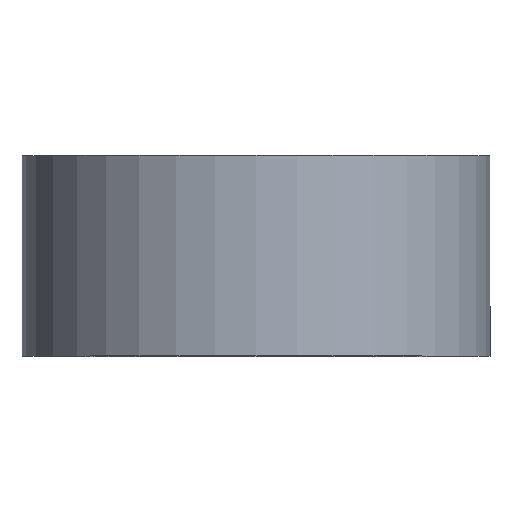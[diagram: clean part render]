
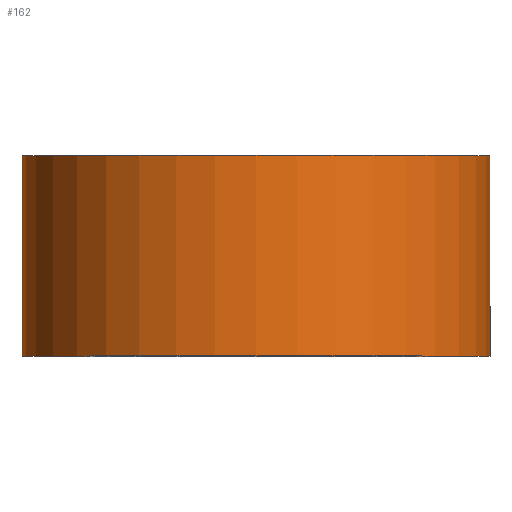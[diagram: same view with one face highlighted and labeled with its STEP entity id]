
A CAD part, top view. The second image highlights one B-rep face of the part: STEP entity #162.
In plain terms, the highlighted cylindrical face has radius 35 mm (diameter 70 mm), a partial arc.
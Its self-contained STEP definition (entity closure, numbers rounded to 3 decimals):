
#6 = CARTESIAN_POINT ( 'NONE',  ( 0., 30., 0. ) ) ;
#7 = ORIENTED_EDGE ( 'NONE', *, *, #86, .F. ) ;
#8 = CYLINDRICAL_SURFACE ( 'NONE', #264, 35. ) ;
#20 = DIRECTION ( 'NONE',  ( -1., 0., 0. ) ) ;
#27 = VERTEX_POINT ( 'NONE', #185 ) ;
#31 = AXIS2_PLACEMENT_3D ( 'NONE', #113, #210, #115 ) ;
#57 = CARTESIAN_POINT ( 'NONE',  ( 35., 0., 0. ) ) ;
#69 = VERTEX_POINT ( 'NONE', #161 ) ;
#71 = CARTESIAN_POINT ( 'NONE',  ( 35., 0., 0. ) ) ;
#76 = EDGE_CURVE ( 'NONE', #27, #219, #273, .T. ) ;
#79 = DIRECTION ( 'NONE',  ( 0., 1., 0. ) ) ;
#86 = EDGE_CURVE ( 'NONE', #233, #69, #249, .T. ) ;
#88 = DIRECTION ( 'NONE',  ( -1., 0., 0. ) ) ;
#90 = EDGE_CURVE ( 'NONE', #219, #69, #188, .T. ) ;
#105 = VECTOR ( 'NONE', #198, 1000. ) ;
#113 = CARTESIAN_POINT ( 'NONE',  ( 0., 0., 0. ) ) ;
#115 = DIRECTION ( 'NONE',  ( -1., 0., 0. ) ) ;
#118 = DIRECTION ( 'NONE',  ( 0., 1., 0. ) ) ;
#124 = LINE ( 'NONE', #126, #105 ) ;
#126 = CARTESIAN_POINT ( 'NONE',  ( -35., 0., 0. ) ) ;
#153 = ORIENTED_EDGE ( 'NONE', *, *, #90, .T. ) ;
#161 = CARTESIAN_POINT ( 'NONE',  ( 35., 30., 0. ) ) ;
#162 = ADVANCED_FACE ( 'NONE', ( #254 ), #8, .T. ) ;
#172 = CARTESIAN_POINT ( 'NONE',  ( 0., 0., 0. ) ) ;
#173 = EDGE_CURVE ( 'NONE', #27, #233, #124, .T. ) ;
#185 = CARTESIAN_POINT ( 'NONE',  ( -35., 0., 0. ) ) ;
#188 = LINE ( 'NONE', #71, #214 ) ;
#198 = DIRECTION ( 'NONE',  ( 0., 1., 0. ) ) ;
#199 = ORIENTED_EDGE ( 'NONE', *, *, #173, .F. ) ;
#210 = DIRECTION ( 'NONE',  ( 0., 1., 0. ) ) ;
#214 = VECTOR ( 'NONE', #238, 1000. ) ;
#219 = VERTEX_POINT ( 'NONE', #57 ) ;
#226 = AXIS2_PLACEMENT_3D ( 'NONE', #6, #118, #88 ) ;
#233 = VERTEX_POINT ( 'NONE', #250 ) ;
#238 = DIRECTION ( 'NONE',  ( 0., 1., 0. ) ) ;
#249 = CIRCLE ( 'NONE', #226, 35. ) ;
#250 = CARTESIAN_POINT ( 'NONE',  ( -35., 30., 0. ) ) ;
#254 = FACE_OUTER_BOUND ( 'NONE', #255, .T. ) ;
#255 = EDGE_LOOP ( 'NONE', ( #294, #153, #7, #199 ) ) ;
#264 = AXIS2_PLACEMENT_3D ( 'NONE', #172, #79, #20 ) ;
#273 = CIRCLE ( 'NONE', #31, 35. ) ;
#294 = ORIENTED_EDGE ( 'NONE', *, *, #76, .T. ) ;
